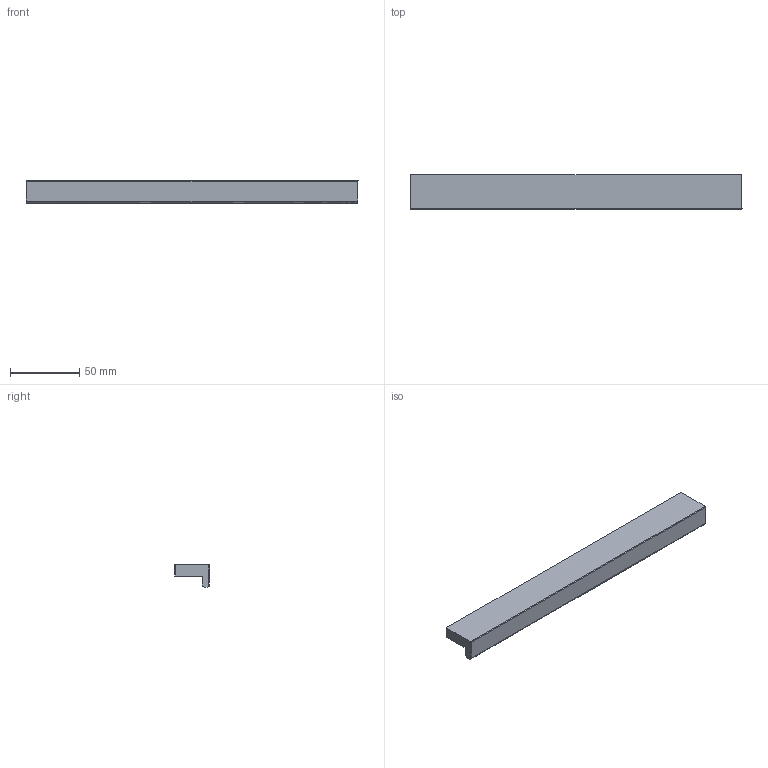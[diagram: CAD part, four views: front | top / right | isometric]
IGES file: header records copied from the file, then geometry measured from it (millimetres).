
Start section: Data from Parasolid IGES Translator 15.0.47, Copyright(c) 2006 Siemens P LM Software. All Rights Reserved.
Global section: file name: 9113299.igs; native system:  By UGS Corp.; preprocessor: XPlus GENERIC/IGES 3.0; author: Noname; organization: Noname; date: 20140122.182847; units: millimetre
Bounding box: 239.01 x 25.01 x 16 mm (x, y, z)
Surface area: 19856 mm2 (no closed solid volume)
Topology: 0 solids, 0 shells, 20 faces, 92 edges, 90 vertices
Faces by surface type: extrusion 10, revolution 10
